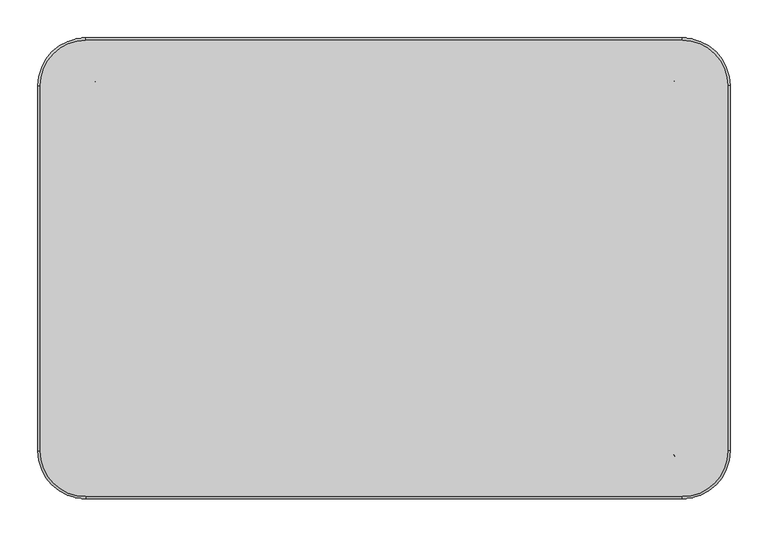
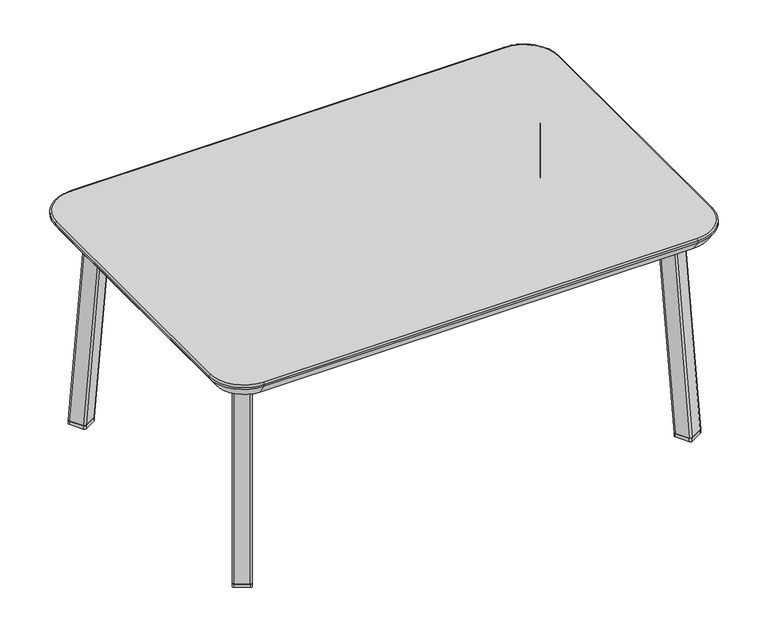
"""IFC4 building model written with IfcOpenShell, lengths in millimetres: furniture geometry, Stance_HC-Jensen-Occasional-Table : JETF243616-T."""

from ifc_helpers import new_model, si_unit, point, frame, frame_2d, origin, origin_with_axes, place, context, project, spatial, polyline, circle_curve, ellipse_curve, trimmed, segment, composite_curve, outline, extrude, source, transform, mapped, element, save
from ifc_brep_helpers import plane_surface, cylinder_surface, revolved_surface, extruded_surface, advanced_brep


def furniture_a8947b07(model_context):
    return source(origin(), model_context, "Body", "SolidModel", [
        extrude(outline(composite_curve([segment(polyline([(423.281574, -260.4321033), (401.2845247, -273.1321056)]), True, "CONTINUOUS"), segment(trimmed(circle_curve(frame_2d((399.6970247, -270.382475)), 3.175), [point((401.2845247, -273.1321056))], [point((396.947394, -271.969975))], False, "CARTESIAN"), True, "CONTINUOUS"), segment(polyline([(396.947394, -271.969975), (384.1983038, -249.887903)]), True, "CONTINUOUS"), segment(trimmed(circle_curve(frame_2d((386.9479345, -248.300403)), 3.175), [point((384.1983038, -249.887903))], [point((385.3604345, -245.5507723))], False, "CARTESIAN"), True, "CONTINUOUS"), segment(polyline([(385.3604345, -245.5507723), (407.3574838, -232.85077)]), True, "CONTINUOUS"), segment(trimmed(circle_curve(frame_2d((408.9449838, -235.6004007)), 3.175), [point((407.3574838, -232.85077))], [point((411.6946144, -234.0129007))], False, "CARTESIAN"), True, "CONTINUOUS"), segment(polyline([(411.6946144, -234.0129007), (424.4437046, -256.0949726)]), True, "CONTINUOUS"), segment(trimmed(circle_curve(frame_2d((421.694074, -257.6824726)), 3.175), [point((424.4437046, -256.0949726))], [point((423.281574, -260.4321033))], False, "CARTESIAN"), True, "CONTINUOUS")], self_intersect=False)), origin_with_axes(), (0.0, 0.0, 1.0), 6.35),
        extrude(outline(composite_curve([segment(polyline([(401.2845247, 273.1321056), (423.281574, 260.4321033)]), True, "CONTINUOUS"), segment(trimmed(circle_curve(frame_2d((421.694074, 257.6824726)), 3.175), [point((423.281574, 260.4321033))], [point((424.4437046, 256.0949726))], False, "CARTESIAN"), True, "CONTINUOUS"), segment(polyline([(424.4437046, 256.0949726), (411.6946144, 234.0129007)]), True, "CONTINUOUS"), segment(trimmed(circle_curve(frame_2d((408.9449838, 235.6004007)), 3.175), [point((411.6946144, 234.0129007))], [point((407.3574838, 232.85077))], False, "CARTESIAN"), True, "CONTINUOUS"), segment(polyline([(407.3574838, 232.85077), (385.3604345, 245.5507723)]), True, "CONTINUOUS"), segment(trimmed(circle_curve(frame_2d((386.9479345, 248.300403)), 3.175), [point((385.3604345, 245.5507723))], [point((384.1983038, 249.887903))], False, "CARTESIAN"), True, "CONTINUOUS"), segment(polyline([(384.1983038, 249.887903), (396.947394, 271.969975)]), True, "CONTINUOUS"), segment(trimmed(circle_curve(frame_2d((399.6970247, 270.382475)), 3.175), [point((396.947394, 271.969975))], [point((401.2845247, 273.1321056))], False, "CARTESIAN"), True, "CONTINUOUS")], self_intersect=False)), origin_with_axes(), (0.0, 0.0, 1.0), 6.35),
        advanced_brep(
        [(370.5120024, -219.8325373, 380.5094413), (369.3498717, -224.1696679, 380.5094413), (382.0989619, -246.2517399, 380.5094413), (386.4360926, -247.4138706, 380.5094413), (408.4331418, -234.7138683, 380.5094413), (409.5952725, -230.3767376, 380.5094413), (396.8461823, -208.2946656, 380.5094413), (392.5090516, -207.132535, 380.5094413), (385.3604345, -245.5507723, 6.35), (407.3574838, -232.85077, 6.35), (411.6946144, -234.0129007, 6.35), (424.4437046, -256.0949726, 6.35), (423.281574, -260.4321033, 6.35), (401.2845247, -273.1321056, 6.35), (396.947394, -271.969975, 6.35), (384.1983038, -249.887903, 6.35)],
        [
            (0, 1, circle_curve(frame((372.0995024, -222.5821679, 380.5094413), z_axis=(0.0, 0.0, 1.0), x_axis=(-1.0, 0.0, 0.0)), 3.175)),
            (1, 2),
            (2, 3, circle_curve(frame((384.8485926, -244.6642399, 380.5094413), z_axis=(0.0, 0.0, 1.0), x_axis=(-1.0, 0.0, 0.0)), 3.175)),
            (3, 4),
            (4, 5, circle_curve(frame((406.8456418, -231.9642376, 380.5094413), z_axis=(0.0, 0.0, 1.0), x_axis=(-1.0, 0.0, 0.0)), 3.175)),
            (5, 6),
            (6, 7, circle_curve(frame((394.0965516, -209.8821656, 380.5094413), z_axis=(0.0, 0.0, 1.0), x_axis=(-1.0, 0.0, 0.0)), 3.175)),
            (7, 0),
            (8, 9),
            (9, 10, circle_curve(frame((408.9449838, -235.6004007, 6.35), z_axis=(0.0, 0.0, -1.0), x_axis=(-1.0, 0.0, 0.0)), 3.175)),
            (10, 11),
            (11, 12, circle_curve(frame((421.694074, -257.6824726, 6.35), z_axis=(0.0, 0.0, -1.0), x_axis=(-1.0, 0.0, 0.0)), 3.175)),
            (12, 13),
            (13, 14, circle_curve(frame((399.6970247, -270.382475, 6.35), z_axis=(0.0, 0.0, -1.0), x_axis=(-1.0, 0.0, 0.0)), 3.175)),
            (14, 15),
            (15, 8, circle_curve(frame((386.9479345, -248.300403, 6.35), z_axis=(0.0, 0.0, -1.0), x_axis=(-1.0, 0.0, 0.0)), 3.175)),
            (15, 1),
            (0, 8),
            (14, 2),
            (13, 3),
            (12, 4),
            (11, 5),
            (10, 6),
            (9, 7),
        ],
        [
            plane_surface(frame((389.4725721, -227.2732028, 380.5094413), z_axis=(0.0, 0.0, 1.0), x_axis=(0.8660254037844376, 0.5000000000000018, 0.0))),
            plane_surface(frame((404.3210042, -252.9914378, 6.35), z_axis=(0.0, 0.0, -1.0), x_axis=(0.8660254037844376, 0.5000000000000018, 0.0))),
            extruded_surface(trimmed(circle_curve(frame((372.0995024, -222.5821679, 380.5094413), z_axis=(0.0, 0.0, -1.0), x_axis=(-1.0, 0.0, 0.0)), 3.175), [point((369.3498717, -224.1696679, 380.5094413))], [point((370.5120024, -219.8325373, 380.5094413))], True, "CARTESIAN"), (14.848432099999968, -25.718235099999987, -374.15944129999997), 375.3361041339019),
            plane_surface(frame((390.5728489, -260.928939, 6.35), z_axis=(-0.8660254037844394, -0.49999999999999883, -5.114262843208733e-09), x_axis=(-0.49999999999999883, 0.8660254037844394, 0.0))),
            extruded_surface(trimmed(circle_curve(frame((384.8485926, -244.6642399, 380.5094413), z_axis=(0.0, 0.0, -1.0), x_axis=(-1.0, 0.0, 0.0)), 3.175), [point((386.4360926, -247.4138706, 380.5094413))], [point((382.0989619, -246.2517399, 380.5094413))], True, "CARTESIAN"), (14.848432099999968, -25.718235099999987, -374.15944129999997), 375.3361041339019),
            plane_surface(frame((412.2830493, -266.7821045, 6.35), z_axis=(0.49843252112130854, -0.8633104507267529, 0.0791207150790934), x_axis=(-0.8660254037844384, -0.5000000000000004, 0.0))),
            extruded_surface(trimmed(circle_curve(frame((406.8456418, -231.9642376, 380.5094413), z_axis=(0.0, 0.0, -1.0), x_axis=(-1.0, 0.0, 0.0)), 3.175), [point((409.5952725, -230.3767376, 380.5094413))], [point((408.4331418, -234.7138683, 380.5094413))], True, "CARTESIAN"), (14.84843219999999, -25.718234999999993, -374.15944129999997), 375.3361041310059),
            plane_surface(frame((418.0691595, -245.0539367, 6.35), z_axis=(0.8660254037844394, 0.4999999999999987, 5.114262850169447e-09), x_axis=(0.4999999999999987, -0.8660254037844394, 0.0))),
            extruded_surface(trimmed(circle_curve(frame((394.0965516, -209.8821656, 380.5094413), z_axis=(0.0, 0.0, -1.0), x_axis=(-1.0, 0.0, 0.0)), 3.175), [point((392.5090516, -207.132535, 380.5094413))], [point((396.8461823, -208.2946656, 380.5094413))], True, "CARTESIAN"), (14.84843219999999, -25.718235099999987, -374.15944129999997), 375.336104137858),
            plane_surface(frame((396.3589591, -239.2007712, 6.35), z_axis=(-0.49843252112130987, 0.8633104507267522, -0.07912071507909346), x_axis=(0.8660254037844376, 0.5000000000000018, 0.0))),
        ],
        [
            (0, [[1, 2, 3, 4, 5, 6, 7, 8]]),
            (1, [[9, 10, 11, 12, 13, 14, 15, 16]]),
            (2, [[17, -1, 18, -16]]),
            (3, [[19, -2, -17, -15]]),
            (4, [[20, -3, -19, -14]]),
            (5, [[21, -4, -20, -13]]),
            (6, [[22, -5, -21, -12]]),
            (7, [[23, -6, -22, -11]]),
            (8, [[24, -7, -23, -10]]),
            (9, [[-18, -8, -24, -9]]),
        ],
    ),
        extrude(outline(polyline([(429.3820372, 251.9484113), (283.8453703, 0.0), (429.3820372, -251.9484113), (390.9068508, -274.1733992), (232.5320372, 0.0), (390.9068508, 274.1733992), (429.3820372, 251.9484113)])), frame((0.0, 0.0, 380.5094413), z_axis=(0.0, 0.0, 1.0), x_axis=(1.0, 0.0, 0.0)), (0.0, 0.0, 1.0), 3.1749879),
        advanced_brep(
        [(370.5120024, 219.8325373, 380.5094413), (392.5090516, 207.132535, 380.5094413), (396.8461823, 208.2946656, 380.5094413), (409.5952725, 230.3767376, 380.5094413), (408.4331418, 234.7138683, 380.5094413), (386.4360926, 247.4138706, 380.5094413), (382.0989619, 246.2517399, 380.5094413), (369.3498717, 224.1696679, 380.5094413), (385.3604345, 245.5507723, 6.35), (384.1983038, 249.887903, 6.35), (396.947394, 271.969975, 6.35), (401.2845247, 273.1321056, 6.35), (423.281574, 260.4321033, 6.35), (424.4437046, 256.0949726, 6.35), (411.6946144, 234.0129007, 6.35), (407.3574838, 232.85077, 6.35)],
        [
            (0, 1),
            (1, 2, circle_curve(frame((394.0965516, 209.8821656, 380.5094413), z_axis=(0.0, 0.0, 1.0), x_axis=(-1.0, 0.0, 0.0)), 3.175)),
            (2, 3),
            (3, 4, circle_curve(frame((406.8456418, 231.9642376, 380.5094413), z_axis=(0.0, 0.0, 1.0), x_axis=(-1.0, 0.0, 0.0)), 3.175)),
            (4, 5),
            (5, 6, circle_curve(frame((384.8485926, 244.6642399, 380.5094413), z_axis=(0.0, 0.0, 1.0), x_axis=(-1.0, 0.0, 0.0)), 3.175)),
            (6, 7),
            (7, 0, circle_curve(frame((372.0995024, 222.5821679, 380.5094413), z_axis=(0.0, 0.0, 1.0), x_axis=(-1.0, 0.0, 0.0)), 3.175)),
            (8, 9, circle_curve(frame((386.9479345, 248.300403, 6.35), z_axis=(0.0, 0.0, -1.0), x_axis=(-1.0, 0.0, 0.0)), 3.175)),
            (9, 10),
            (10, 11, circle_curve(frame((399.6970247, 270.382475, 6.35), z_axis=(0.0, 0.0, -1.0), x_axis=(-1.0, 0.0, 0.0)), 3.175)),
            (11, 12),
            (12, 13, circle_curve(frame((421.694074, 257.6824726, 6.35), z_axis=(0.0, 0.0, -1.0), x_axis=(-1.0, 0.0, 0.0)), 3.175)),
            (13, 14),
            (14, 15, circle_curve(frame((408.9449838, 235.6004007, 6.35), z_axis=(0.0, 0.0, -1.0), x_axis=(-1.0, 0.0, 0.0)), 3.175)),
            (15, 8),
            (8, 0),
            (7, 9),
            (6, 10),
            (5, 11),
            (4, 12),
            (3, 13),
            (2, 14),
            (1, 15),
        ],
        [
            plane_surface(frame((389.4725721, 227.2732028, 380.5094413), z_axis=(0.0, 0.0, 1.0), x_axis=(-0.8660254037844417, 0.49999999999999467, 0.0))),
            plane_surface(frame((404.3210042, 252.9914378, 6.35), z_axis=(0.0, 0.0, -1.0), x_axis=(-0.8660254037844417, 0.49999999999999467, 0.0))),
            extruded_surface(trimmed(circle_curve(frame((372.0995024, 222.5821679, 380.5094413), z_axis=(0.0, 0.0, -1.0), x_axis=(-1.0, 0.0, 0.0)), 3.175), [point((370.5120024, 219.8325373, 380.5094413))], [point((369.3498717, 224.1696679, 380.5094413))], True, "CARTESIAN"), (14.848432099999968, 25.718235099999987, -374.15944129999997), 375.3361041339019),
            plane_surface(frame((390.5728489, 260.928939, 6.35), z_axis=(-0.8660254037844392, 0.49999999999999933, -5.114262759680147e-09), x_axis=(0.49999999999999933, 0.8660254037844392, 0.0))),
            extruded_surface(trimmed(circle_curve(frame((384.8485926, 244.6642399, 380.5094413), z_axis=(0.0, 0.0, -1.0), x_axis=(-1.0, 0.0, 0.0)), 3.175), [point((382.0989619, 246.2517399, 380.5094413))], [point((386.4360926, 247.4138706, 380.5094413))], True, "CARTESIAN"), (14.848432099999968, 25.718235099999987, -374.15944129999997), 375.3361041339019),
            plane_surface(frame((412.2830493, 266.7821045, 6.35), z_axis=(0.4984325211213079, 0.8633104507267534, 0.07912071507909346), x_axis=(0.8660254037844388, -0.49999999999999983, 0.0))),
            extruded_surface(trimmed(circle_curve(frame((406.8456418, 231.9642376, 380.5094413), z_axis=(0.0, 0.0, -1.0), x_axis=(-1.0, 0.0, 0.0)), 3.175), [point((408.4331418, 234.7138683, 380.5094413))], [point((409.5952725, 230.3767376, 380.5094413))], True, "CARTESIAN"), (14.84843219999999, 25.718234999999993, -374.15944129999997), 375.3361041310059),
            plane_surface(frame((418.0691595, 245.0539367, 6.35), z_axis=(0.8660254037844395, -0.49999999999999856, 5.1142629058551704e-09), x_axis=(-0.49999999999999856, -0.8660254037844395, 0.0))),
            extruded_surface(trimmed(circle_curve(frame((394.0965516, 209.8821656, 380.5094413), z_axis=(0.0, 0.0, -1.0), x_axis=(-1.0, 0.0, 0.0)), 3.175), [point((396.8461823, 208.2946656, 380.5094413))], [point((392.5090516, 207.132535, 380.5094413))], True, "CARTESIAN"), (14.84843219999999, 25.718235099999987, -374.15944129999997), 375.336104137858),
            plane_surface(frame((396.3589591, 239.2007712, 6.35), z_axis=(-0.49843252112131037, -0.863310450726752, -0.07912071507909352), x_axis=(-0.8660254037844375, 0.5000000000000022, 0.0))),
        ],
        [
            (0, [[1, 2, 3, 4, 5, 6, 7, 8]]),
            (1, [[9, 10, 11, 12, 13, 14, 15, 16]]),
            (2, [[17, -8, 18, -9]]),
            (3, [[-18, -7, 19, -10]]),
            (4, [[-19, -6, 20, -11]]),
            (5, [[-20, -5, 21, -12]]),
            (6, [[-21, -4, 22, -13]]),
            (7, [[-22, -3, 23, -14]]),
            (8, [[-23, -2, 24, -15]]),
            (9, [[-24, -1, -17, -16]]),
        ],
    ),
        extrude(outline(composite_curve([segment(trimmed(circle_curve(frame_2d((-420.290244, -257.6824726)), 3.175), [point((-421.877744, -260.4321033))], [point((-423.0398747, -256.0949726))], False, "CARTESIAN"), True, "CONTINUOUS"), segment(polyline([(-423.0398747, -256.0949726), (-410.2907845, -234.0129007)]), True, "CONTINUOUS"), segment(trimmed(circle_curve(frame_2d((-407.5411538, -235.6004007)), 3.175), [point((-410.2907845, -234.0129007))], [point((-405.9536538, -232.85077))], False, "CARTESIAN"), True, "CONTINUOUS"), segment(polyline([(-405.9536538, -232.85077), (-383.9566046, -245.5507723)]), True, "CONTINUOUS"), segment(trimmed(circle_curve(frame_2d((-385.5441046, -248.300403)), 3.175), [point((-383.9566046, -245.5507723))], [point((-382.7944739, -249.887903))], False, "CARTESIAN"), True, "CONTINUOUS"), segment(polyline([(-382.7944739, -249.887903), (-395.5435641, -271.969975)]), True, "CONTINUOUS"), segment(trimmed(circle_curve(frame_2d((-398.2931948, -270.382475)), 3.175), [point((-395.5435641, -271.969975))], [point((-399.8806948, -273.1321056))], False, "CARTESIAN"), True, "CONTINUOUS"), segment(polyline([(-399.8806948, -273.1321056), (-421.877744, -260.4321033)]), True, "CONTINUOUS")], self_intersect=False)), origin_with_axes(), (0.0, 0.0, 1.0), 6.35),
        extrude(outline(composite_curve([segment(trimmed(circle_curve(frame_2d((-398.2931948, 270.382475)), 3.175), [point((-399.8806948, 273.1321056))], [point((-395.5435641, 271.969975))], False, "CARTESIAN"), True, "CONTINUOUS"), segment(polyline([(-395.5435641, 271.969975), (-382.7944739, 249.887903)]), True, "CONTINUOUS"), segment(trimmed(circle_curve(frame_2d((-385.5441046, 248.300403)), 3.175), [point((-382.7944739, 249.887903))], [point((-383.9566046, 245.5507723))], False, "CARTESIAN"), True, "CONTINUOUS"), segment(polyline([(-383.9566046, 245.5507723), (-405.9536538, 232.85077)]), True, "CONTINUOUS"), segment(trimmed(circle_curve(frame_2d((-407.5411538, 235.6004007)), 3.175), [point((-405.9536538, 232.85077))], [point((-410.2907845, 234.0129007))], False, "CARTESIAN"), True, "CONTINUOUS"), segment(polyline([(-410.2907845, 234.0129007), (-423.0398747, 256.0949726)]), True, "CONTINUOUS"), segment(trimmed(circle_curve(frame_2d((-420.290244, 257.6824726)), 3.175), [point((-423.0398747, 256.0949726))], [point((-421.877744, 260.4321033))], False, "CARTESIAN"), True, "CONTINUOUS"), segment(polyline([(-421.877744, 260.4321033), (-399.8806948, 273.1321056)]), True, "CONTINUOUS")], self_intersect=False)), origin_with_axes(), (0.0, 0.0, 1.0), 6.35),
        advanced_brep(
        [(-369.1081724, -219.8325373, 380.5094413), (-391.1052217, -207.132535, 380.5094413), (-395.4423524, -208.2946656, 380.5094413), (-408.1914426, -230.3767376, 380.5094413), (-407.0293119, -234.7138683, 380.5094413), (-385.0322626, -247.4138706, 380.5094413), (-380.695132, -246.2517399, 380.5094413), (-367.9460418, -224.1696679, 380.5094413), (-383.9566046, -245.5507723, 6.35), (-382.7944739, -249.887903, 6.35), (-395.5435641, -271.969975, 6.35), (-399.8806948, -273.1321056, 6.35), (-421.877744, -260.4321033, 6.35), (-423.0398747, -256.0949726, 6.35), (-410.2907845, -234.0129007, 6.35), (-405.9536538, -232.85077, 6.35)],
        [
            (0, 1),
            (1, 2, circle_curve(frame((-392.6927217, -209.8821656, 380.5094413), z_axis=(0.0, 0.0, 1.0), x_axis=(1.0, 0.0, 0.0)), 3.175)),
            (2, 3),
            (3, 4, circle_curve(frame((-405.4418119, -231.9642376, 380.5094413), z_axis=(0.0, 0.0, 1.0), x_axis=(1.0, 0.0, 0.0)), 3.175)),
            (4, 5),
            (5, 6, circle_curve(frame((-383.4447626, -244.6642399, 380.5094413), z_axis=(0.0, 0.0, 1.0), x_axis=(1.0, 0.0, 0.0)), 3.175)),
            (6, 7),
            (7, 0, circle_curve(frame((-370.6956724, -222.5821679, 380.5094413), z_axis=(0.0, 0.0, 1.0), x_axis=(1.0, 0.0, 0.0)), 3.175)),
            (8, 9, circle_curve(frame((-385.5441046, -248.300403, 6.35), z_axis=(0.0, 0.0, -1.0), x_axis=(1.0, 0.0, 0.0)), 3.175)),
            (9, 10),
            (10, 11, circle_curve(frame((-398.2931948, -270.382475, 6.35), z_axis=(0.0, 0.0, -1.0), x_axis=(1.0, 0.0, 0.0)), 3.175)),
            (11, 12),
            (12, 13, circle_curve(frame((-420.290244, -257.6824726, 6.35), z_axis=(0.0, 0.0, -1.0), x_axis=(1.0, 0.0, 0.0)), 3.175)),
            (13, 14),
            (14, 15, circle_curve(frame((-407.5411538, -235.6004007, 6.35), z_axis=(0.0, 0.0, -1.0), x_axis=(1.0, 0.0, 0.0)), 3.175)),
            (15, 8),
            (8, 0),
            (7, 9),
            (6, 10),
            (5, 11),
            (4, 12),
            (3, 13),
            (2, 14),
            (1, 15),
        ],
        [
            plane_surface(frame((-388.0687422, -227.2732028, 380.5094413), z_axis=(0.0, 0.0, 1.0), x_axis=(-0.8660254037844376, 0.5000000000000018, 0.0))),
            plane_surface(frame((-402.9171743, -252.9914378, 6.35), z_axis=(0.0, 0.0, -1.0), x_axis=(-0.8660254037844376, 0.5000000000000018, 0.0))),
            extruded_surface(trimmed(circle_curve(frame((-385.5441046, -248.300403, 6.35), z_axis=(0.0, 0.0, 1.0), x_axis=(1.0, 0.0, 0.0)), 3.175), [point((-382.7944739, -249.887903, 6.35))], [point((-383.9566046, -245.5507723, 6.35))], True, "CARTESIAN"), (14.848432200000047, 25.718235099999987, 374.15944129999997), 375.336104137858),
            plane_surface(frame((-389.169019, -260.928939, 6.35), z_axis=(0.8660254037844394, -0.49999999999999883, -5.114262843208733e-09), x_axis=(0.49999999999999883, 0.8660254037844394, 0.0))),
            extruded_surface(trimmed(circle_curve(frame((-398.2931948, -270.382475, 6.35), z_axis=(0.0, 0.0, 1.0), x_axis=(1.0, 0.0, 0.0)), 3.175), [point((-399.8806948, -273.1321056, 6.35))], [point((-395.5435641, -271.969975, 6.35))], True, "CARTESIAN"), (14.84843219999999, 25.718235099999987, 374.15944129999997), 375.336104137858),
            plane_surface(frame((-410.8792194, -266.7821045, 6.35), z_axis=(-0.49843252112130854, -0.8633104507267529, 0.0791207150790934), x_axis=(0.8660254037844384, -0.5000000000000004, 0.0))),
            extruded_surface(trimmed(circle_curve(frame((-420.290244, -257.6824726, 6.35), z_axis=(0.0, 0.0, 1.0), x_axis=(1.0, 0.0, 0.0)), 3.175), [point((-423.0398747, -256.0949726, 6.35))], [point((-421.877744, -260.4321033, 6.35))], True, "CARTESIAN"), (14.848432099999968, 25.718234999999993, 374.15944129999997), 375.3361041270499),
            plane_surface(frame((-416.6653296, -245.0539367, 6.35), z_axis=(-0.8660254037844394, 0.4999999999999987, 5.114262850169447e-09), x_axis=(-0.4999999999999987, -0.8660254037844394, 0.0))),
            extruded_surface(trimmed(circle_curve(frame((-407.5411538, -235.6004007, 6.35), z_axis=(0.0, 0.0, 1.0), x_axis=(1.0, 0.0, 0.0)), 3.175), [point((-405.9536538, -232.85077, 6.35))], [point((-410.2907845, -234.0129007, 6.35))], True, "CARTESIAN"), (14.848432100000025, 25.718235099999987, 374.15944129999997), 375.3361041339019),
            plane_surface(frame((-394.9551292, -239.2007712, 6.35), z_axis=(0.49843252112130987, 0.8633104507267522, -0.07912071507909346), x_axis=(-0.8660254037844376, 0.5000000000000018, 0.0))),
        ],
        [
            (0, [[1, 2, 3, 4, 5, 6, 7, 8]]),
            (1, [[9, 10, 11, 12, 13, 14, 15, 16]]),
            (2, [[-9, 17, -8, 18]]),
            (3, [[-10, -18, -7, 19]]),
            (4, [[-11, -19, -6, 20]]),
            (5, [[-12, -20, -5, 21]]),
            (6, [[-13, -21, -4, 22]]),
            (7, [[-14, -22, -3, 23]]),
            (8, [[-15, -23, -2, 24]]),
            (9, [[-16, -24, -1, -17]]),
        ],
    ),
        extrude(outline(polyline([(-427.9782073, 251.9484113), (-389.5030209, 274.1733992), (-231.1282073, 0.0), (-389.5030209, -274.1733992), (-427.9782073, -251.9484113), (-282.4415404, 0.0), (-427.9782073, 251.9484113)])), frame((0.0, 0.0, 380.5094413), z_axis=(0.0, 0.0, 1.0), x_axis=(1.0, 0.0, 0.0)), (0.0, 0.0, 1.0), 3.1749879),
        advanced_brep(
        [(-369.1081724, 219.8325373, 380.5094413), (-367.9460418, 224.1696679, 380.5094413), (-380.695132, 246.2517399, 380.5094413), (-385.0322626, 247.4138706, 380.5094413), (-407.0293119, 234.7138683, 380.5094413), (-408.1914426, 230.3767376, 380.5094413), (-395.4423524, 208.2946656, 380.5094413), (-391.1052217, 207.132535, 380.5094413), (-383.9566046, 245.5507723, 6.35), (-405.9536538, 232.85077, 6.35), (-410.2907845, 234.0129007, 6.35), (-423.0398747, 256.0949726, 6.35), (-421.877744, 260.4321033, 6.35), (-399.8806948, 273.1321056, 6.35), (-395.5435641, 271.969975, 6.35), (-382.7944739, 249.887903, 6.35)],
        [
            (0, 1, circle_curve(frame((-370.6956724, 222.5821679, 380.5094413), z_axis=(0.0, 0.0, 1.0), x_axis=(1.0, 0.0, 0.0)), 3.175)),
            (1, 2),
            (2, 3, circle_curve(frame((-383.4447626, 244.6642399, 380.5094413), z_axis=(0.0, 0.0, 1.0), x_axis=(1.0, 0.0, 0.0)), 3.175)),
            (3, 4),
            (4, 5, circle_curve(frame((-405.4418119, 231.9642376, 380.5094413), z_axis=(0.0, 0.0, 1.0), x_axis=(1.0, 0.0, 0.0)), 3.175)),
            (5, 6),
            (6, 7, circle_curve(frame((-392.6927217, 209.8821656, 380.5094413), z_axis=(0.0, 0.0, 1.0), x_axis=(1.0, 0.0, 0.0)), 3.175)),
            (7, 0),
            (8, 9),
            (9, 10, circle_curve(frame((-407.5411538, 235.6004007, 6.35), z_axis=(0.0, 0.0, -1.0), x_axis=(1.0, 0.0, 0.0)), 3.175)),
            (10, 11),
            (11, 12, circle_curve(frame((-420.290244, 257.6824726, 6.35), z_axis=(0.0, 0.0, -1.0), x_axis=(1.0, 0.0, 0.0)), 3.175)),
            (12, 13),
            (13, 14, circle_curve(frame((-398.2931948, 270.382475, 6.35), z_axis=(0.0, 0.0, -1.0), x_axis=(1.0, 0.0, 0.0)), 3.175)),
            (14, 15),
            (15, 8, circle_curve(frame((-385.5441046, 248.300403, 6.35), z_axis=(0.0, 0.0, -1.0), x_axis=(1.0, 0.0, 0.0)), 3.175)),
            (15, 1),
            (0, 8),
            (14, 2),
            (13, 3),
            (12, 4),
            (11, 5),
            (10, 6),
            (9, 7),
        ],
        [
            plane_surface(frame((-388.0687422, 227.2732028, 380.5094413), z_axis=(0.0, 0.0, 1.0), x_axis=(0.8660254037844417, 0.49999999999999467, 0.0))),
            plane_surface(frame((-402.9171743, 252.9914378, 6.35), z_axis=(0.0, 0.0, -1.0), x_axis=(0.8660254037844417, 0.49999999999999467, 0.0))),
            extruded_surface(trimmed(circle_curve(frame((-385.5441046, 248.300403, 6.35), z_axis=(0.0, 0.0, 1.0), x_axis=(1.0, 0.0, 0.0)), 3.175), [point((-383.9566046, 245.5507723, 6.35))], [point((-382.7944739, 249.887903, 6.35))], True, "CARTESIAN"), (14.848432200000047, -25.718235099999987, 374.15944129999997), 375.336104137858),
            plane_surface(frame((-389.169019, 260.928939, 6.35), z_axis=(0.8660254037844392, 0.49999999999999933, -5.114262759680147e-09), x_axis=(-0.49999999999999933, 0.8660254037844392, 0.0))),
            extruded_surface(trimmed(circle_curve(frame((-398.2931948, 270.382475, 6.35), z_axis=(0.0, 0.0, 1.0), x_axis=(1.0, 0.0, 0.0)), 3.175), [point((-395.5435641, 271.969975, 6.35))], [point((-399.8806948, 273.1321056, 6.35))], True, "CARTESIAN"), (14.84843219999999, -25.718235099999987, 374.15944129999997), 375.336104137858),
            plane_surface(frame((-410.8792194, 266.7821045, 6.35), z_axis=(-0.4984325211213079, 0.8633104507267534, 0.07912071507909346), x_axis=(-0.8660254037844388, -0.49999999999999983, 0.0))),
            extruded_surface(trimmed(circle_curve(frame((-420.290244, 257.6824726, 6.35), z_axis=(0.0, 0.0, 1.0), x_axis=(1.0, 0.0, 0.0)), 3.175), [point((-421.877744, 260.4321033, 6.35))], [point((-423.0398747, 256.0949726, 6.35))], True, "CARTESIAN"), (14.848432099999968, -25.718234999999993, 374.15944129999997), 375.3361041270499),
            plane_surface(frame((-416.6653296, 245.0539367, 6.35), z_axis=(-0.8660254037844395, -0.49999999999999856, 5.1142629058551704e-09), x_axis=(0.49999999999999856, -0.8660254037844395, 0.0))),
            extruded_surface(trimmed(circle_curve(frame((-407.5411538, 235.6004007, 6.35), z_axis=(0.0, 0.0, 1.0), x_axis=(1.0, 0.0, 0.0)), 3.175), [point((-410.2907845, 234.0129007, 6.35))], [point((-405.9536538, 232.85077, 6.35))], True, "CARTESIAN"), (14.848432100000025, -25.718235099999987, 374.15944129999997), 375.3361041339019),
            plane_surface(frame((-394.9551292, 239.2007712, 6.35), z_axis=(0.49843252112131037, -0.863310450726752, -0.07912071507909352), x_axis=(0.8660254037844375, 0.5000000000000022, 0.0))),
        ],
        [
            (0, [[1, 2, 3, 4, 5, 6, 7, 8]]),
            (1, [[9, 10, 11, 12, 13, 14, 15, 16]]),
            (2, [[-16, 17, -1, 18]]),
            (3, [[-15, 19, -2, -17]]),
            (4, [[-14, 20, -3, -19]]),
            (5, [[-13, 21, -4, -20]]),
            (6, [[-12, 22, -5, -21]]),
            (7, [[-11, 23, -6, -22]]),
            (8, [[-10, 24, -7, -23]]),
            (9, [[-9, -18, -8, -24]]),
        ],
    ),
        advanced_brep(
        [(457.2, -241.3, 405.9094413), (393.7, -304.8, 405.9094413), (393.7, -304.8, 402.7343928), (457.2, -241.3, 402.7343928), (393.7, -291.4610718, 383.6844292), (443.8610718, -241.3, 383.6844292), (457.2, 241.3, 402.7343928), (457.2, 241.3, 405.9094413), (443.8610718, 241.3, 383.6844292), (393.7, 304.8, 402.7343928), (393.7, 304.8, 405.9094413), (393.7, 291.4610718, 383.6844292), (-393.7, 304.8, 402.7343928), (-393.7, 304.8, 405.9094413), (-393.7, 291.4610718, 383.6844292), (-457.2, 241.3, 402.7343928), (-457.2, 241.3, 405.9094413), (-443.8610718, 241.3, 383.6844292), (-457.2, -241.3, 402.7343928), (-457.2, -241.3, 405.9094413), (-443.8610718, -241.3, 383.6844292), (-393.7, -304.8, 402.7343928), (-393.7, -304.8, 405.9094413), (-393.7, -291.4610718, 383.6844292), (-454.025, 241.3, 409.0844413), (-454.025, -241.3, 409.0844413), (-393.7, -301.625, 409.0844413), (393.7, -301.625, 409.0844413), (454.025, -241.3, 409.0844413), (454.025, 241.3, 409.0844413), (393.7, 301.625, 409.0844413), (-393.7, 301.625, 409.0844413)],
        [
            (0, 1, circle_curve(frame((393.7, -241.3, 405.9094413), z_axis=(0.0, 0.0, -1.0), x_axis=(0.0, -1.0, 0.0)), 63.5)),
            (1, 2),
            (2, 3, circle_curve(frame((393.7, -241.3, 402.7343928), z_axis=(0.0, 0.0, 1.0), x_axis=(0.0, -1.0, 0.0)), 63.5)),
            (3, 0),
            (2, 4),
            (4, 5, circle_curve(frame((393.7, -241.3, 383.6844292), z_axis=(0.0, 0.0, 1.0), x_axis=(0.0, -1.0, 0.0)), 50.1610718)),
            (5, 3),
            (3, 6),
            (6, 7),
            (7, 0),
            (5, 8),
            (8, 6),
            (6, 9, circle_curve(frame((393.7, 241.3, 402.7343928), z_axis=(0.0, 0.0, 1.0), x_axis=(1.0, 0.0, 0.0)), 63.5)),
            (9, 10),
            (10, 7, circle_curve(frame((393.7, 241.3, 405.9094413), z_axis=(0.0, 0.0, -1.0), x_axis=(1.0, 0.0, 0.0)), 63.5)),
            (8, 11, circle_curve(frame((393.7, 241.3, 383.6844292), z_axis=(0.0, 0.0, 1.0), x_axis=(1.0, 0.0, 0.0)), 50.1610718)),
            (11, 9),
            (9, 12),
            (12, 13),
            (13, 10),
            (11, 14),
            (14, 12),
            (12, 15, circle_curve(frame((-393.7, 241.3, 402.7343928), z_axis=(0.0, 0.0, 1.0), x_axis=(0.0, 1.0, 0.0)), 63.5)),
            (15, 16),
            (16, 13, circle_curve(frame((-393.7, 241.3, 405.9094413), z_axis=(0.0, 0.0, -1.0), x_axis=(0.0, 1.0, 0.0)), 63.5)),
            (14, 17, circle_curve(frame((-393.7, 241.3, 383.6844292), z_axis=(0.0, 0.0, 1.0), x_axis=(0.0, 1.0, 0.0)), 50.1610718)),
            (17, 15),
            (15, 18),
            (18, 19),
            (19, 16),
            (17, 20),
            (20, 18),
            (18, 21, circle_curve(frame((-393.7, -241.3, 402.7343928), z_axis=(0.0, 0.0, 1.0), x_axis=(-1.0, 0.0, 0.0)), 63.5)),
            (21, 22),
            (22, 19, circle_curve(frame((-393.7, -241.3, 405.9094413), z_axis=(0.0, 0.0, -1.0), x_axis=(-1.0, 0.0, 0.0)), 63.5)),
            (20, 23, circle_curve(frame((-393.7, -241.3, 383.6844292), z_axis=(0.0, 0.0, 1.0), x_axis=(-1.0, 0.0, 0.0)), 50.1610718)),
            (23, 21),
            (1, 22),
            (21, 2),
            (24, 25),
            (25, 26, circle_curve(frame((-393.7, -241.3, 409.0844413), z_axis=(0.0, 0.0, 1.0), x_axis=(-1.0, 0.0, 0.0)), 60.325)),
            (26, 27),
            (27, 28, circle_curve(frame((393.7, -241.3, 409.0844413), z_axis=(0.0, 0.0, 1.0), x_axis=(0.0, -1.0, 0.0)), 60.325)),
            (28, 29),
            (29, 30, circle_curve(frame((393.7, 241.3, 409.0844413), z_axis=(0.0, 0.0, 1.0), x_axis=(1.0, 0.0, 0.0)), 60.325)),
            (30, 31),
            (31, 24, circle_curve(frame((-393.7, 241.3, 409.0844413), z_axis=(0.0, 0.0, 1.0), x_axis=(0.0, 1.0, 0.0)), 60.325)),
            (4, 23),
            (0, 28, circle_curve(frame((454.025, -241.3, 405.9094413), z_axis=(0.0, -1.0, 0.0), x_axis=(-1.0, 0.0, 0.0)), 3.175)),
            (27, 1, circle_curve(frame((393.7, -301.625, 405.9094413), z_axis=(1.0, 0.0, 0.0), x_axis=(0.0, 1.0, 0.0)), 3.175)),
            (7, 29, circle_curve(frame((454.025, 241.3, 405.9094413), z_axis=(0.0, -1.0, 0.0), x_axis=(-1.0, 0.0, 0.0)), 3.175)),
            (10, 30, circle_curve(frame((393.7, 301.625, 405.9094413), z_axis=(1.0, 0.0, 0.0), x_axis=(0.0, -1.0, 0.0)), 3.175)),
            (13, 31, circle_curve(frame((-393.7, 301.625, 405.9094413), z_axis=(1.0, 0.0, 0.0), x_axis=(0.0, -1.0, 0.0)), 3.175)),
            (16, 24, circle_curve(frame((-454.025, 241.3, 405.9094413), z_axis=(0.0, 1.0, 0.0), x_axis=(1.0, 0.0, 0.0)), 3.175)),
            (19, 25, circle_curve(frame((-454.025, -241.3, 405.9094413), z_axis=(0.0, 1.0, 0.0), x_axis=(1.0, 0.0, 0.0)), 3.175)),
            (22, 26, circle_curve(frame((-393.7, -301.625, 405.9094413), z_axis=(-1.0, 0.0, 0.0), x_axis=(0.0, 1.0, 0.0)), 3.175)),
        ],
        [
            cylinder_surface(frame((393.7, -241.3, 409.0844413), z_axis=(0.0, 0.0, 1.0), x_axis=(0.0, -1.0, 0.0)), 63.5),
            revolved_surface(polyline([(393.7, -291.4610718, 383.6844292), (393.7, -304.8, 402.7343928)]), (393.7, -241.3, 409.0844413), (0.0, 0.0, 1.0)),
            plane_surface(frame((457.2, -241.3, 402.7343928), z_axis=(1.0, 0.0, 0.0), x_axis=(0.0, 1.0, 0.0))),
            plane_surface(frame((443.8610718, -241.3, 383.6844292), z_axis=(0.8191520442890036, 0.0, -0.5735764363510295), x_axis=(0.0, 1.0, 0.0))),
            cylinder_surface(frame((393.7, 241.3, 409.0844413), z_axis=(0.0, 0.0, 1.0), x_axis=(1.0, 0.0, 0.0)), 63.5),
            revolved_surface(polyline([(443.8610718, 241.3, 383.6844292), (457.2, 241.3, 402.7343928)]), (393.7, 241.3, 409.0844413), (0.0, 0.0, 1.0)),
            plane_surface(frame((393.7, 304.8, 402.7343928), z_axis=(0.0, 1.0, 0.0), x_axis=(-1.0, 0.0, 0.0))),
            plane_surface(frame((393.7, 291.4610718, 383.6844292), z_axis=(0.0, 0.8191520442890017, -0.5735764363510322), x_axis=(-1.0, 0.0, 0.0))),
            cylinder_surface(frame((-393.7, 241.3, 409.0844413), z_axis=(0.0, 0.0, 1.0), x_axis=(0.0, 1.0, 0.0)), 63.5),
            revolved_surface(polyline([(-393.7, 291.4610718, 383.6844292), (-393.7, 304.8, 402.7343928)]), (-393.7, 241.3, 409.0844413), (0.0, 0.0, 1.0)),
            plane_surface(frame((-457.2, 241.3, 402.7343928), z_axis=(-1.0, 0.0, 0.0), x_axis=(0.0, -1.0, 0.0))),
            plane_surface(frame((-443.8610718, 241.3, 383.6844292), z_axis=(-0.8191520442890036, 0.0, -0.5735764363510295), x_axis=(0.0, -1.0, 0.0))),
            cylinder_surface(frame((-393.7, -241.3, 409.0844413), z_axis=(0.0, 0.0, 1.0), x_axis=(-1.0, 0.0, 0.0)), 63.5),
            revolved_surface(polyline([(-443.8610718, -241.3, 383.6844292), (-457.2, -241.3, 402.7343928)]), (-393.7, -241.3, 409.0844413), (0.0, 0.0, 1.0)),
            plane_surface(frame((-393.7, -304.8, 402.7343928), z_axis=(0.0, -1.0, 0.0), x_axis=(1.0, 0.0, 0.0))),
            plane_surface(frame((-393.7, -301.625, 409.0844413), z_axis=(0.0, 0.0, 1.0), x_axis=(1.0, 0.0, 0.0))),
            plane_surface(frame((-393.7, -279.4000061, 383.6844292), z_axis=(0.0, 0.0, -1.0), x_axis=(1.0, 0.0, 0.0))),
            plane_surface(frame((-393.7, -291.4610718, 383.6844292), z_axis=(0.0, -0.8191520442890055, -0.5735764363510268), x_axis=(1.0, 0.0, 0.0))),
            revolved_surface(trimmed(ellipse_curve(frame((393.7, -301.625, 405.9094413), z_axis=(-1.0, 0.0, 0.0), x_axis=(0.0, 1.0, 0.0)), 3.175, 3.175), [point((393.7, -304.8, 405.9094413))], [point((393.7, -301.625, 409.0844413))], True, "CARTESIAN"), (393.7, -241.3, 409.0844413), (0.0, 0.0, 1.0)),
            cylinder_surface(frame((454.025, -241.3, 405.9094413), z_axis=(0.0, -1.0, 0.0), x_axis=(-1.0, 0.0, 0.0)), 3.175),
            revolved_surface(trimmed(ellipse_curve(frame((454.025, 241.3, 405.9094413), z_axis=(0.0, -1.0, 0.0), x_axis=(-1.0, 0.0, 0.0)), 3.175, 3.175), [point((457.2, 241.3, 405.9094413))], [point((454.025, 241.3, 409.0844413))], True, "CARTESIAN"), (393.7, 241.3, 409.0844413), (0.0, 0.0, 1.0)),
            cylinder_surface(frame((393.7, 301.625, 405.9094413), z_axis=(1.0, 0.0, 0.0), x_axis=(0.0, -1.0, 0.0)), 3.175),
            revolved_surface(trimmed(ellipse_curve(frame((-393.7, 301.625, 405.9094413), z_axis=(1.0, 0.0, 0.0), x_axis=(0.0, -1.0, 0.0)), 3.175, 3.175), [point((-393.7, 304.8, 405.9094413))], [point((-393.7, 301.625, 409.0844413))], True, "CARTESIAN"), (-393.7, 241.3, 409.0844413), (0.0, 0.0, 1.0)),
            cylinder_surface(frame((-454.025, 241.3, 405.9094413), z_axis=(0.0, 1.0, 0.0), x_axis=(1.0, 0.0, 0.0)), 3.175),
            revolved_surface(trimmed(ellipse_curve(frame((-454.025, -241.3, 405.9094413), z_axis=(0.0, 1.0, 0.0), x_axis=(1.0, 0.0, 0.0)), 3.175, 3.175), [point((-457.2, -241.3, 405.9094413))], [point((-454.025, -241.3, 409.0844413))], True, "CARTESIAN"), (-393.7, -241.3, 409.0844413), (0.0, 0.0, 1.0)),
            cylinder_surface(frame((-393.7, -301.625, 405.9094413), z_axis=(-1.0, 0.0, 0.0), x_axis=(0.0, 1.0, 0.0)), 3.175),
        ],
        [
            (0, [[1, 2, 3, 4]]),
            (1, [[-3, 5, 6, 7]]),
            (2, [[-4, 8, 9, 10]]),
            (3, [[-7, 11, 12, -8]]),
            (4, [[-9, 13, 14, 15]]),
            (5, [[-12, 16, 17, -13]]),
            (6, [[-14, 18, 19, 20]]),
            (7, [[-17, 21, 22, -18]]),
            (8, [[-19, 23, 24, 25]]),
            (9, [[-22, 26, 27, -23]]),
            (10, [[-24, 28, 29, 30]]),
            (11, [[-27, 31, 32, -28]]),
            (12, [[-29, 33, 34, 35]]),
            (13, [[-32, 36, 37, -33]]),
            (14, [[-2, 38, -34, 39]]),
            (15, [[40, 41, 42, 43, 44, 45, 46, 47]]),
            (16, [[-6, 48, -36, -31, -26, -21, -16, -11]]),
            (17, [[-5, -39, -37, -48]]),
            (18, [[-1, 49, -43, 50]]),
            (19, [[-10, 51, -44, -49]]),
            (20, [[-15, 52, -45, -51]]),
            (21, [[-20, 53, -46, -52]]),
            (22, [[-25, 54, -47, -53]]),
            (23, [[-30, 55, -40, -54]]),
            (24, [[-35, 56, -41, -55]]),
            (25, [[-38, -50, -42, -56]]),
        ],
    ),
    ])


if __name__ == "__main__":
    model = new_model("IFC4")
    model_context = context("Model", 3, world=origin())
    ifc_project = project(units=[si_unit("LENGTHUNIT", "METRE", prefix="MILLI")], contexts=[model_context])
    site = spatial("IfcSite", under=ifc_project)
    building = spatial("IfcBuilding", under=site)
    placement = place(None, origin())
    furniture_shape = furniture_a8947b07(model_context)
    element("IfcFurniture", 1, ObjectType="Stance_HC-Jensen-Occasional-Table : JETF243616-T", at=placement, inside=building, context=model_context, shape_type="MappedRepresentation", body=[
        mapped(furniture_shape, transform((0.0, 0.0, 0.0), x_axis=(1.0, 0.0, 0.0), y_axis=(0.0, 1.0, 0.0), z_axis=(0.0, 0.0, 1.0))),
    ])
    save(model, "model.ifc")
